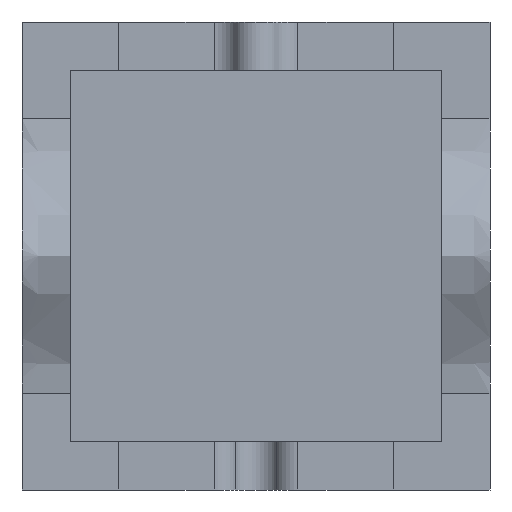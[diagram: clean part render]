
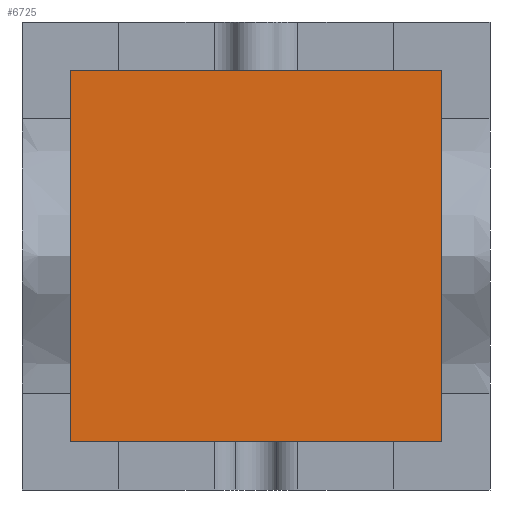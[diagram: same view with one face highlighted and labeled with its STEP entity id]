
A CAD part, front view. The second image highlights one B-rep face of the part: STEP entity #6725.
In plain terms, the highlighted planar face has unit normal (0, -1, 0).
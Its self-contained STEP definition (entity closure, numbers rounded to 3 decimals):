
#6599=CARTESIAN_POINT('Vertex',(-20.,-30.,-20.)) ;
#6604=CARTESIAN_POINT('Line Origine',(-20.,-30.,57.)) ;
#6608=CARTESIAN_POINT('Vertex',(-20.,-30.,134.)) ;
#6635=CARTESIAN_POINT('Line Origine',(57.,-30.,134.)) ;
#6639=CARTESIAN_POINT('Vertex',(134.,-30.,134.)) ;
#6666=CARTESIAN_POINT('Line Origine',(134.,-30.,57.)) ;
#6670=CARTESIAN_POINT('Vertex',(134.,-30.,-20.)) ;
#6697=CARTESIAN_POINT('Line Origine',(57.,-30.,-20.)) ;
#6714=CARTESIAN_POINT('Axis2P3D Location',(0.,-30.,0.)) ;
#6605=DIRECTION('Vector Direction',(0.,0.,-1.)) ;
#6636=DIRECTION('Vector Direction',(1.,0.,0.)) ;
#6667=DIRECTION('Vector Direction',(0.,0.,1.)) ;
#6698=DIRECTION('Vector Direction',(-1.,0.,0.)) ;
#6715=DIRECTION('Axis2P3D Direction',(0.,1.,0.)) ;
#6716=DIRECTION('Axis2P3D XDirection',(-1.,0.,0.)) ;
#6717=AXIS2_PLACEMENT_3D('Plane Axis2P3D',#6714,#6715,#6716) ;
#6720=ORIENTED_EDGE('',*,*,#6701,.F.) ;
#6721=ORIENTED_EDGE('',*,*,#6672,.F.) ;
#6722=ORIENTED_EDGE('',*,*,#6641,.F.) ;
#6723=ORIENTED_EDGE('',*,*,#6610,.F.) ;
#6606=VECTOR('Line Direction',#6605,1.) ;
#6637=VECTOR('Line Direction',#6636,1.) ;
#6668=VECTOR('Line Direction',#6667,1.) ;
#6699=VECTOR('Line Direction',#6698,1.) ;
#6725=ADVANCED_FACE('Cavity-molde',(#6724),#6718,.F.) ;
#6610=EDGE_CURVE('',#6600,#6609,#6607,.F.) ;
#6641=EDGE_CURVE('',#6609,#6640,#6638,.T.) ;
#6672=EDGE_CURVE('',#6640,#6671,#6669,.F.) ;
#6701=EDGE_CURVE('',#6671,#6600,#6700,.T.) ;
#6719=EDGE_LOOP('',(#6720,#6721,#6722,#6723)) ;
#6724=FACE_OUTER_BOUND('',#6719,.T.) ;
#6607=LINE('Line',#6604,#6606) ;
#6638=LINE('Line',#6635,#6637) ;
#6669=LINE('Line',#6666,#6668) ;
#6700=LINE('Line',#6697,#6699) ;
#6718=PLANE('',#6717) ;
#6600=VERTEX_POINT('',#6599) ;
#6609=VERTEX_POINT('',#6608) ;
#6640=VERTEX_POINT('',#6639) ;
#6671=VERTEX_POINT('',#6670) ;
